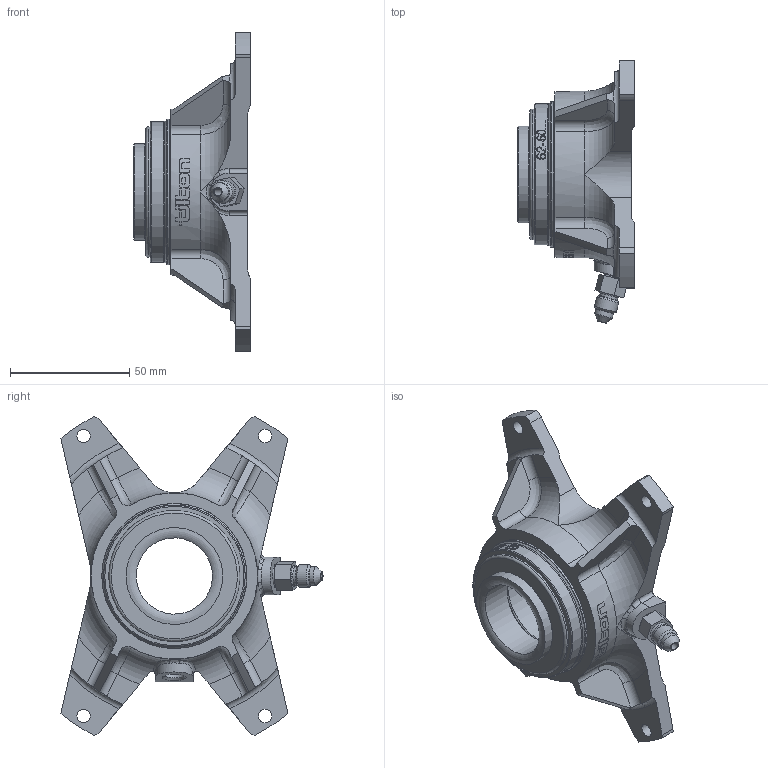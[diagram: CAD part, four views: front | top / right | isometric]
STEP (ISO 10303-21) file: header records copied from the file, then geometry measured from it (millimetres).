
FILE_DESCRIPTION( ( 'Unknown' ), '1' );
FILE_NAME( 'M:/ENG2/CAD/DRAWINGS/Solid Models For Customers (Simplified)/HYDRAULIC RELEASE BEARINGS/60-5300.stp', 'Unknown', ( 'Unknown' ), ( 'Unknown' ), 'PSStep 16.0.42', 'Unknown', ' ' );
FILE_SCHEMA( ( 'AUTOMOTIVE_DESIGN { 1 0 10303 214 1 1 1 1 }' ) );
Length unit declared in the file: millimetre
Products named in the file (1): 5564
Bounding box: 48.92 x 109.98 x 133.99 mm (x, y, z)
Volume: 154626 mm3; surface area: 37840.8 mm2
Topology: 1 solids, 3 shells, 227 faces, 656 edges, 470 vertices
Faces by surface type: cylinder 100, plane 56, torus 32, bspline 20, cone 19
Full cylindrical faces by diameter (mm): 3.175 x1, 5.563 x4, 7.734 x2, 7.925 x2, 8.379 x3, 9.525 x1, 32.004 x1, 35.001 x2, 38.1 x1, 39.116 x1, 40.64 x1, 42.926 x1, 54.991 x1, 57.061 x1, 59.182 x1, 60.96 x1
Entity records: 15036 total; most frequent: CARTESIAN_POINT 7824, ORIENTED_EDGE 1172, DIRECTION 944, EDGE_CURVE 586, VERTEX_POINT 452, AXIS2_PLACEMENT_3D 402, EDGE_LOOP 328, FACE_OUTER_BOUND 267
